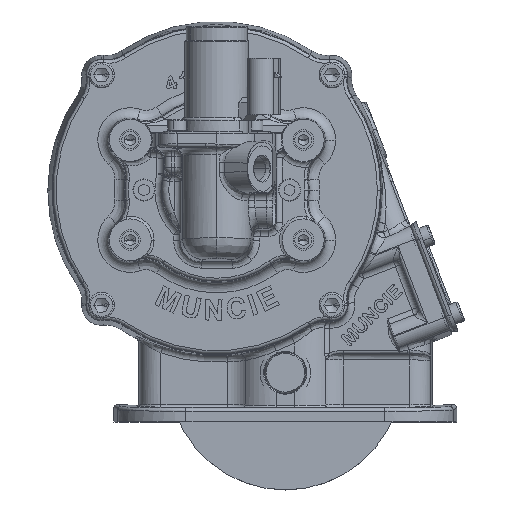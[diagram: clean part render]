
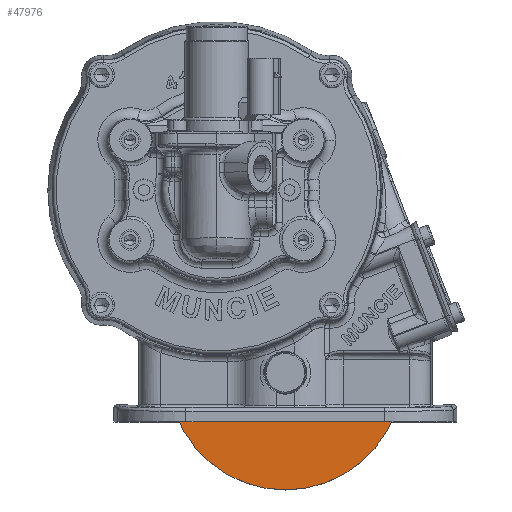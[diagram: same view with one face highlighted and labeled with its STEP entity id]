
A CAD part, top view. The second image highlights one B-rep face of the part: STEP entity #47976.
In plain terms, the highlighted planar face has unit normal (0, 0, 1) as drawn and (0, -1, 0) by its records, which use the part's own axes.
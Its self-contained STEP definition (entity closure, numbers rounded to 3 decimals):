
#1408 = DIRECTION ( 'NONE',  ( 0., 0., 1. ) ) ;
#1926 = CIRCLE ( 'NONE', #67606, 9.131 ) ;
#4359 = EDGE_CURVE ( 'NONE', #24648, #71122, #100116, .T. ) ;
#10440 = CARTESIAN_POINT ( 'NONE',  ( 0., 0., -9.131 ) ) ;
#17091 = DIRECTION ( 'NONE',  ( 0., 1., 0. ) ) ;
#17908 = DIRECTION ( 'NONE',  ( 0., 1., 0. ) ) ;
#19011 = CARTESIAN_POINT ( 'NONE',  ( 0., 0., -54.229 ) ) ;
#23265 = CARTESIAN_POINT ( 'NONE',  ( 0., 0., 9.131 ) ) ;
#24648 = VERTEX_POINT ( 'NONE', #81463 ) ;
#38137 = EDGE_CURVE ( 'NONE', #144613, #49649, #1926, .T. ) ;
#41114 = CARTESIAN_POINT ( 'NONE',  ( 0., 0., 0. ) ) ;
#41645 = CIRCLE ( 'NONE', #73117, 54.229 ) ;
#42147 = PLANE ( 'NONE',  #125616 ) ;
#47976 = ADVANCED_FACE ( 'NONE', ( #106135, #50640 ), #42147, .F. ) ;
#49649 = VERTEX_POINT ( 'NONE', #10440 ) ;
#50640 = FACE_OUTER_BOUND ( 'NONE', #146079, .T. ) ;
#53229 = DIRECTION ( 'NONE',  ( 0., 1., 0. ) ) ;
#54018 = DIRECTION ( 'NONE',  ( 0., 1., 0. ) ) ;
#65770 = ORIENTED_EDGE ( 'NONE', *, *, #103747, .T. ) ;
#67606 = AXIS2_PLACEMENT_3D ( 'NONE', #88589, #17908, #100545 ) ;
#71122 = VERTEX_POINT ( 'NONE', #19011 ) ;
#72113 = DIRECTION ( 'NONE',  ( 0., 1., 0. ) ) ;
#73117 = AXIS2_PLACEMENT_3D ( 'NONE', #87746, #17091, #99717 ) ;
#77202 = EDGE_CURVE ( 'NONE', #71122, #24648, #41645, .T. ) ;
#80135 = ORIENTED_EDGE ( 'NONE', *, *, #77202, .F. ) ;
#81463 = CARTESIAN_POINT ( 'NONE',  ( 0., 0., 54.229 ) ) ;
#84545 = AXIS2_PLACEMENT_3D ( 'NONE', #124121, #53229, #135973 ) ;
#87746 = CARTESIAN_POINT ( 'NONE',  ( 0., 0., 0. ) ) ;
#88589 = CARTESIAN_POINT ( 'NONE',  ( 0., 0., 0. ) ) ;
#88984 = AXIS2_PLACEMENT_3D ( 'NONE', #142949, #72113, #1408 ) ;
#95756 = ORIENTED_EDGE ( 'NONE', *, *, #38137, .T. ) ;
#99717 = DIRECTION ( 'NONE',  ( 0., 0., 1. ) ) ;
#100116 = CIRCLE ( 'NONE', #88984, 54.229 ) ;
#100545 = DIRECTION ( 'NONE',  ( 0., 0., 1. ) ) ;
#103747 = EDGE_CURVE ( 'NONE', #49649, #144613, #134615, .T. ) ;
#106135 = FACE_BOUND ( 'NONE', #108851, .T. ) ;
#108851 = EDGE_LOOP ( 'NONE', ( #95756, #65770 ) ) ;
#123295 = ORIENTED_EDGE ( 'NONE', *, *, #4359, .F. ) ;
#124121 = CARTESIAN_POINT ( 'NONE',  ( 0., 0., 0. ) ) ;
#125616 = AXIS2_PLACEMENT_3D ( 'NONE', #41114, #54018, #136760 ) ;
#134615 = CIRCLE ( 'NONE', #84545, 9.131 ) ;
#135973 = DIRECTION ( 'NONE',  ( 0., 0., 1. ) ) ;
#136760 = DIRECTION ( 'NONE',  ( 0., 0., 1. ) ) ;
#142949 = CARTESIAN_POINT ( 'NONE',  ( 0., 0., 0. ) ) ;
#144613 = VERTEX_POINT ( 'NONE', #23265 ) ;
#146079 = EDGE_LOOP ( 'NONE', ( #80135, #123295 ) ) ;
